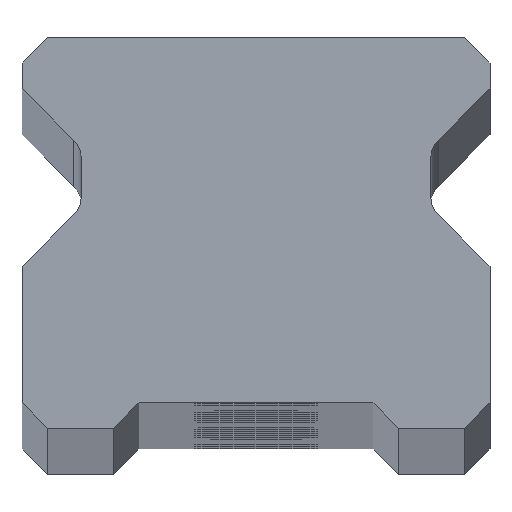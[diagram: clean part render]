
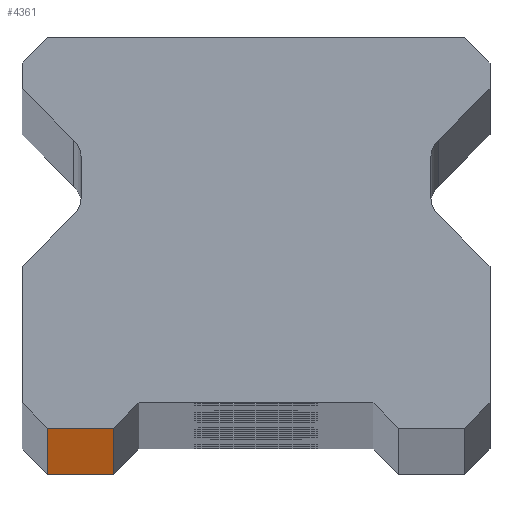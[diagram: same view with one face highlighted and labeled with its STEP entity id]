
A CAD part, top view. The second image highlights one B-rep face of the part: STEP entity #4361.
In plain terms, the highlighted planar face has unit normal (0, -1, 0).
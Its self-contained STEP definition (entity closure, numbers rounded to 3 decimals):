
#195 = EDGE_CURVE ( 'NONE', #3459, #608, #1253, .T. ) ;
#220 = CARTESIAN_POINT ( 'NONE',  ( -7., 0., 650. ) ) ;
#407 = CARTESIAN_POINT ( 'NONE',  ( 11.5, 0., 650. ) ) ;
#608 = VERTEX_POINT ( 'NONE', #4489 ) ;
#842 = VERTEX_POINT ( 'NONE', #1340 ) ;
#1130 = DIRECTION ( 'NONE',  ( 0., 1., 0. ) ) ;
#1181 = DIRECTION ( 'NONE',  ( -1., 0., 0. ) ) ;
#1253 = LINE ( 'NONE', #2621, #2801 ) ;
#1304 = DIRECTION ( 'NONE',  ( 0., 0., 1. ) ) ;
#1340 = CARTESIAN_POINT ( 'NONE',  ( -10.25, 0., 650. ) ) ;
#1408 = EDGE_CURVE ( 'NONE', #608, #4740, #2973, .T. ) ;
#1524 = PLANE ( 'NONE',  #3065 ) ;
#1535 = VECTOR ( 'NONE', #4573, 1000. ) ;
#1563 = FACE_OUTER_BOUND ( 'NONE', #3924, .T. ) ;
#1575 = ORIENTED_EDGE ( 'NONE', *, *, #195, .T. ) ;
#1604 = DIRECTION ( 'NONE',  ( 0., 0., -1. ) ) ;
#1660 = VECTOR ( 'NONE', #1304, 1000. ) ;
#1794 = EDGE_CURVE ( 'NONE', #842, #3459, #4703, .T. ) ;
#2315 = ORIENTED_EDGE ( 'NONE', *, *, #1794, .T. ) ;
#2432 = ORIENTED_EDGE ( 'NONE', *, *, #2741, .F. ) ;
#2621 = CARTESIAN_POINT ( 'NONE',  ( 11.5, 0., -650. ) ) ;
#2642 = CARTESIAN_POINT ( 'NONE',  ( 11.5, 0., 650. ) ) ;
#2741 = EDGE_CURVE ( 'NONE', #842, #4740, #3202, .T. ) ;
#2801 = VECTOR ( 'NONE', #3410, 1000. ) ;
#2973 = LINE ( 'NONE', #3222, #1660 ) ;
#3065 = AXIS2_PLACEMENT_3D ( 'NONE', #407, #1130, #1181 ) ;
#3202 = LINE ( 'NONE', #2642, #1535 ) ;
#3222 = CARTESIAN_POINT ( 'NONE',  ( -7., 0., -650. ) ) ;
#3248 = ORIENTED_EDGE ( 'NONE', *, *, #1408, .T. ) ;
#3410 = DIRECTION ( 'NONE',  ( 1., 0., 0. ) ) ;
#3459 = VERTEX_POINT ( 'NONE', #3579 ) ;
#3579 = CARTESIAN_POINT ( 'NONE',  ( -10.25, 0., -650. ) ) ;
#3833 = CARTESIAN_POINT ( 'NONE',  ( -10.25, 0., 650. ) ) ;
#3924 = EDGE_LOOP ( 'NONE', ( #1575, #3248, #2432, #2315 ) ) ;
#4347 = VECTOR ( 'NONE', #1604, 1000. ) ;
#4361 = ADVANCED_FACE ( 'NONE', ( #1563 ), #1524, .F. ) ;
#4489 = CARTESIAN_POINT ( 'NONE',  ( -7., 0., -650. ) ) ;
#4573 = DIRECTION ( 'NONE',  ( 1., 0., 0. ) ) ;
#4703 = LINE ( 'NONE', #3833, #4347 ) ;
#4740 = VERTEX_POINT ( 'NONE', #220 ) ;
